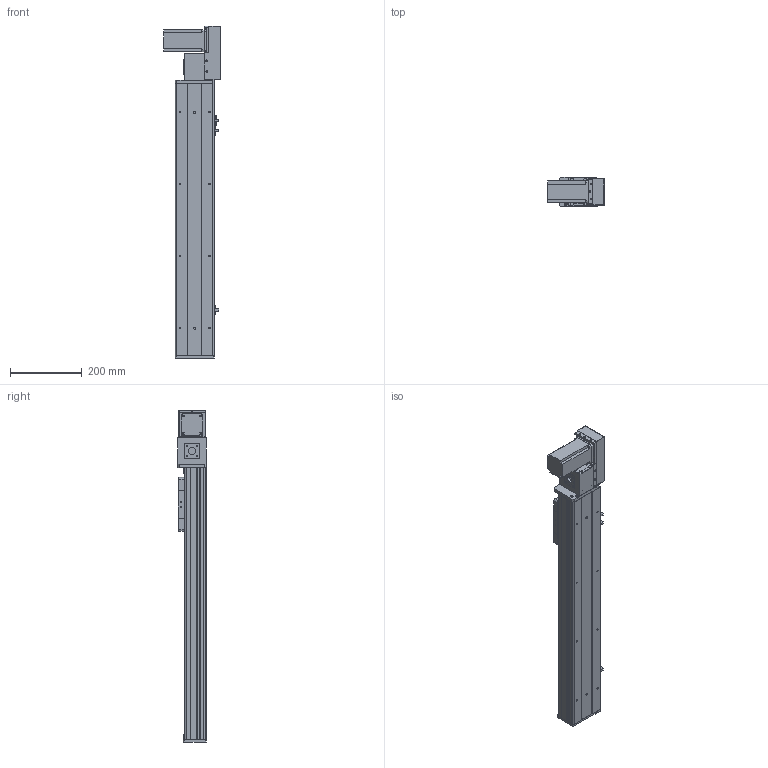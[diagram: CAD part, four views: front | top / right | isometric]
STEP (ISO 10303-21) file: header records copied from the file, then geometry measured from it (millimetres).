
FILE_DESCRIPTION (( 'STEP AP203' ), '1' );
FILE_NAME ('Y10CB-D90-S500-BR-P400W.STEP', '2020-02-16T01:38:01', ( '微软用户' ), ( '微软中国' ), 'SwSTEP 2.0', 'SolidWorks 2017', '' );
FILE_SCHEMA (( 'CONFIG_CONTROL_DESIGN' ));
Length unit declared in the file: millimetre
Products named in the file (18): Y100-135俋离換覜ん--; 0B-源倛裔啣; Y10B--々湍喘謫眊--666; 0B-埴倛裔啣; Y10CB-D90-S500-BR-P400W; Y俋欶BR----; 0CB-雄赽釱---; 10CB-詩湍-; Y10CB- 掛极耜裔啣-毀---; 0Cb-俋欶---; Y10C---詩湍揤啣; Y10B-々湍喘謫眊楊擘啣--; 10CB9-掛极; Y10B-耜蚾蟀諉啣----; 10CB-耜裔; 0B-萇儂楊擘啣; Y135C-陔俋离換覜結え-; san松下电机400不带刹车----
Assembly tree (21 placements, depth 2):
  Y10CB-D90-S500-BR-P400W
    0CB-雄赽釱---
    0Cb-俋欶---
    Y10B-々湍喘謫眊楊擘啣--
    Y10B-耜蚾蟀諉啣----
    0B-萇儂楊擘啣
    san松下电机400不带刹车----
    0B-源倛裔啣
    0B-埴倛裔啣
    Y俋欶BR----
    10CB-詩湍-
    Y10CB- 掛极耜裔啣-毀---  x2
    Y10C---詩湍揤啣  x2
    10CB9-掛极
    10CB-耜裔
    Y135C-陔俋离換覜結え-
    Y100-135俋离換覜ん--  x3
    Y10B--々湍喘謫眊--666
Bounding box: 157.5 x 80.5 x 922.5 mm (x, y, z)
Volume: 2264428.2 mm3; surface area: 972361.3 mm2
Topology: 21 solids, 21 shells, 954 faces, 2523 edges, 1658 vertices
Faces by surface type: plane 473, cylinder 457, cone 24
Entity records: 29404 total; most frequent: CARTESIAN_POINT 5025, DIRECTION 4790, ORIENTED_EDGE 4516, EDGE_CURVE 2258, AXIS2_PLACEMENT_3D 1713, VERTEX_POINT 1484, VECTOR 1364, LINE 1364
